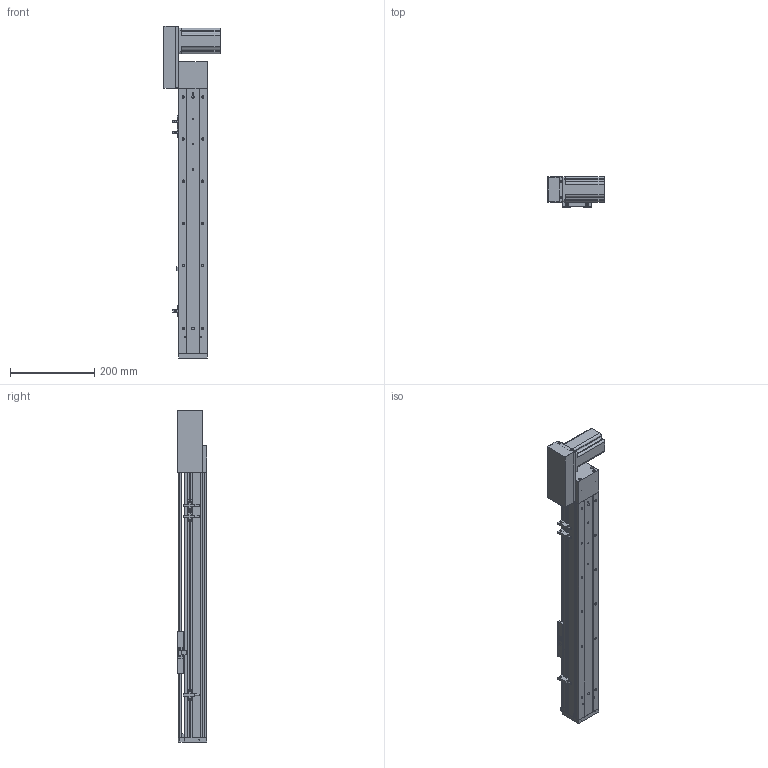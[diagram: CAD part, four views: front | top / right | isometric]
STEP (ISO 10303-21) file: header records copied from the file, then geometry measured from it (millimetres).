
FILE_DESCRIPTION (( 'STEP AP203' ), '1' );
FILE_NAME ('ML68-S450-CR.STEP', '2016-08-04T12:44:01', ( '' ), ( '' ), 'SwSTEP 2.0', 'SolidWorks 2014', '' );
FILE_SCHEMA (( 'CONFIG_CONTROL_DESIGN' ));
Length unit declared in the file: millimetre
Products named in the file (12): ML68雄赽釱; 葩璃 ML68菁釱^ML68-S450-CR; QS68左右折电机板罩子; 三协电机MH201N2_預設; ML68-BL傷啣; ML68-S450-CR; ML68傷啣; ML68滅鳥啣盓傅輸; QS68酘衵殏萇儂啣; 換覜ん; 60換覜結え; ML68奻裔^ML68-S450-CR
Assembly tree (13 placements, depth 2):
  ML68-S450-CR
    葩璃 ML68菁釱^ML68-S450-CR
    ML68奻裔^ML68-S450-CR
    ML68傷啣
    ML68-BL傷啣
    60換覜結え
    換覜ん  x3
    三协电机MH201N2_預設
    ML68雄赽釱
    QS68酘衵殏萇儂啣
    QS68左右折电机板罩子
    ML68滅鳥啣盓傅輸
Bounding box: 133.5 x 70.5 x 788.5 mm (x, y, z)
Volume: 1488346.9 mm3; surface area: 535419.8 mm2
Topology: 13 solids, 13 shells, 887 faces, 2426 edges, 1537 vertices
Faces by surface type: cylinder 402, plane 389, cone 96
Entity records: 27982 total; most frequent: CARTESIAN_POINT 5278, DIRECTION 4592, ORIENTED_EDGE 4352, EDGE_CURVE 2176, AXIS2_PLACEMENT_3D 1655, VERTEX_POINT 1425, LINE 1282, VECTOR 1282
